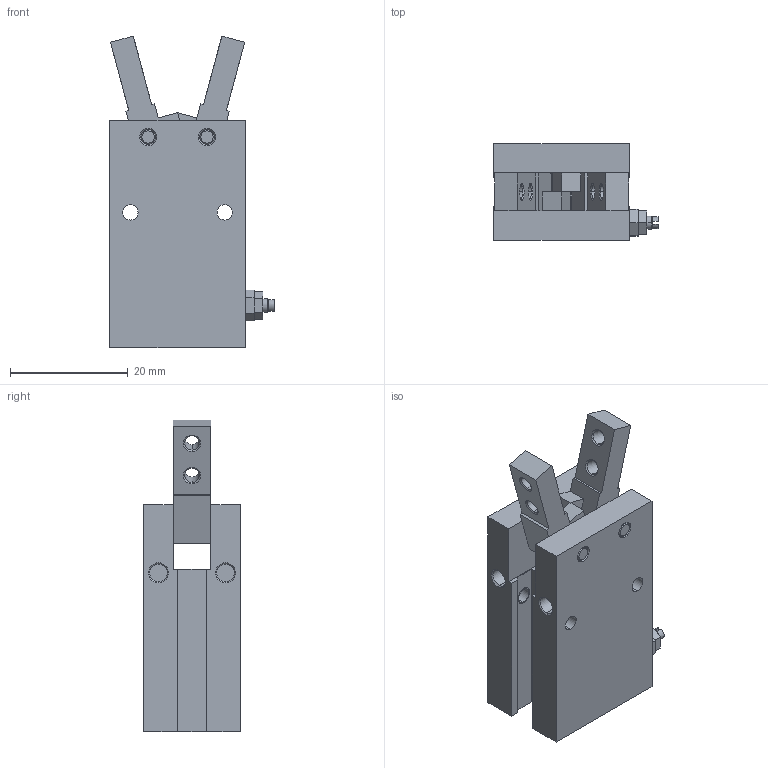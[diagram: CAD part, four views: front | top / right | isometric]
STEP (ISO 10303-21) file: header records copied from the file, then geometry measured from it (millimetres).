
FILE_DESCRIPTION (( 'STEP AP203' ), '1' );
FILE_NAME ('CHC2-10D.STEP', '2010-11-26T12:52:17', ( '.' ), ( '' ), 'SwSTEP 2.0', 'SolidWorks 2009', '' );
FILE_SCHEMA (( 'CONFIG_CONTROL_DESIGN' ));
Length unit declared in the file: millimetre
Products named in the file (3): 1_10D; 2_10; CHC2-10D
Assembly tree (3 placements, depth 2):
  CHC2-10D
    2_10  x2
    1_10D
Bounding box: 27.9 x 16.4 x 52.93 mm (x, y, z)
Volume: 11964.9 mm3; surface area: 6763.3 mm2
Topology: 3 solids, 3 shells, 188 faces, 446 edges, 280 vertices
Faces by surface type: plane 84, cylinder 54, cone 50
Entity records: 4788 total; most frequent: DIRECTION 815, CARTESIAN_POINT 754, ORIENTED_EDGE 730, EDGE_CURVE 365, AXIS2_PLACEMENT_3D 291, VECTOR 233, LINE 233, VERTEX_POINT 230
